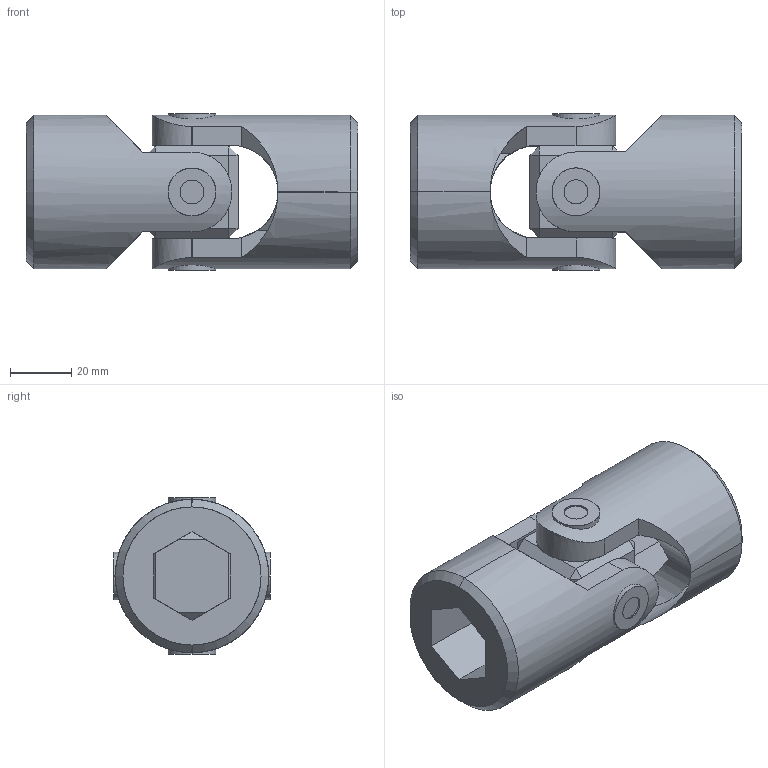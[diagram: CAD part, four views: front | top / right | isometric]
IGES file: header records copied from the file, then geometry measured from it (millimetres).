
Start section: SolidWorks IGES file using analytic representation for surfaces
Global section: file name: C:\Users\IanO\Desktop\R3690_v2\R3690_v2_20231020_IGES\R3690.025-HB.igs; native system: SolidWorks 2019; preprocessor: SolidWorks 2019; author: IanO; date: 231020.152812; units: millimetre
Bounding box: 108 x 51 x 51 mm (x, y, z)
Surface area: 40360.6 mm2 (no closed solid volume)
Topology: 0 solids, 0 shells, 112 faces, 2224 edges, 2224 vertices
Faces by surface type: bspline 68, revolution 44
